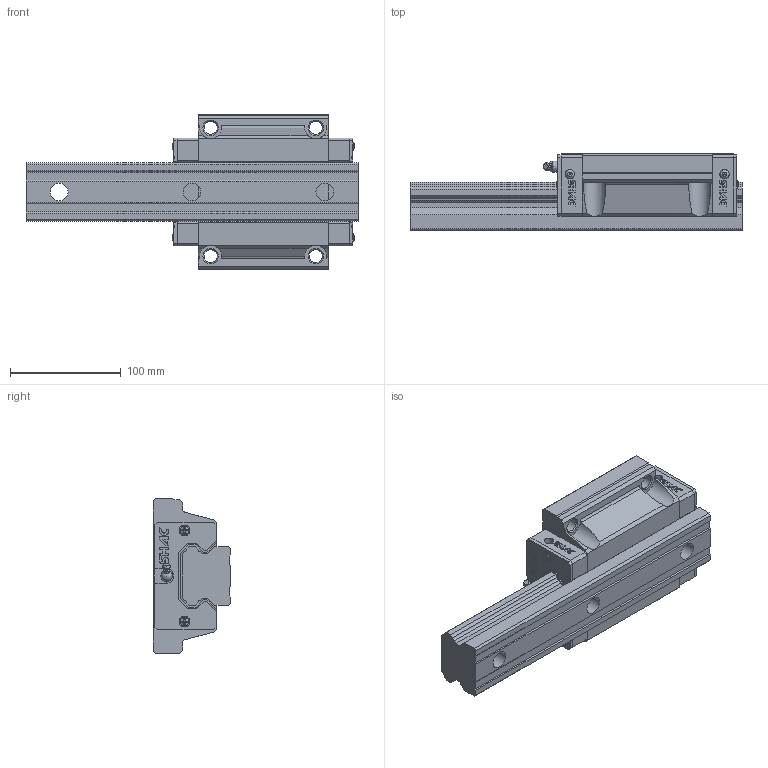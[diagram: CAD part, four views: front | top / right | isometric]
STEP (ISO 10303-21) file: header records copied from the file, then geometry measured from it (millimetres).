
FILE_DESCRIPTION( ( 'STEP AP214' ), '1' );
FILE_NAME( 'F:/品牌/SHAC 台湾鼎翰传动科技有限公司/3D滑块/GHW55CA1R300Z0C-30_30_1_1_.stp', '2025-04-21T22:47:07', ( 'License CC BY-ND 4.0' ), ( 'CADENAS' ), ' ', 'PARTsolutions', ' ' );
FILE_SCHEMA( ( 'AUTOMOTIVE_DESIGN { 1 0 10303 214 1 1 1 1 }' ) );
Length unit declared in the file: millimetre
Products named in the file (8): GHW55CA1R300Z0C-30/30(1_1); _GHR55R300C+RC-30/30(1)_RAIL; _GHW55CA_SLIDER; _GHW55CA_C; _GHW55CA_P; _GH55_SCREW; _GH55_BOLT; _GH55-_G
Assembly tree (12 placements, depth 2):
  GHW55CA1R300Z0C-30/30(1_1)
    _GHR55R300C+RC-30/30(1)_RAIL
    _GHW55CA_SLIDER
    _GHW55CA_C  x2
    _GHW55CA_P  x2
    _GH55_SCREW  x4
    _GH55_BOLT
    _GH55-_G
Bounding box: 300 x 70 x 140 mm (x, y, z)
Volume: 1396739 mm3; surface area: 188547.2 mm2
Topology: 12 solids, 12 shells, 798 faces, 2123 edges, 1400 vertices
Faces by surface type: plane 642, cylinder 115, cone 26, torus 9, sphere 5, bspline 1
Full cylindrical faces by diameter (mm): 1 x4, 4.5 x1, 4.7 x4, 7.35 x2, 7.76 x4, 8.4 x4, 9.7 x4, 10 x2, 10.3 x2, 11.835 x4, 16 x3, 23 x3
Entity records: 19195 total; most frequent: CARTESIAN_POINT 2900, ORIENTED_EDGE 2512, DIRECTION 2434, EDGE_CURVE 1256, LINE 1012, VECTOR 1012, VERTEX_POINT 853, AXIS2_PLACEMENT_3D 711
